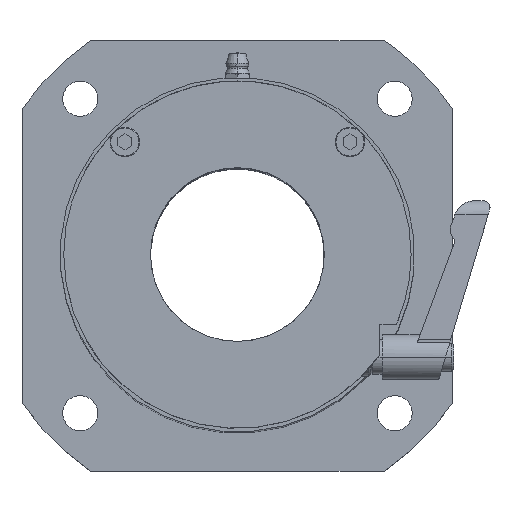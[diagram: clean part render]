
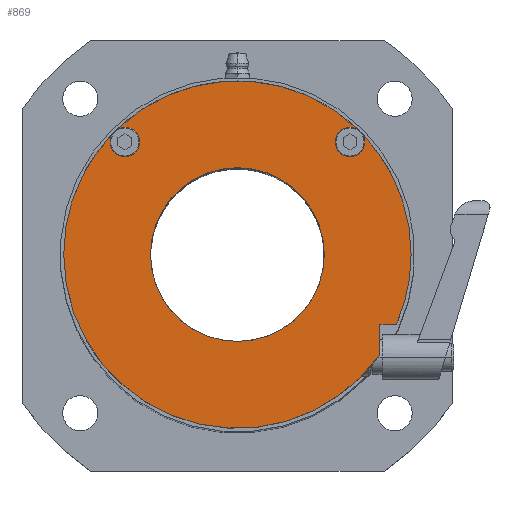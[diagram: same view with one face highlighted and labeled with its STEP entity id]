
A CAD part, top view. The second image highlights one B-rep face of the part: STEP entity #869.
In plain terms, the highlighted planar face has unit normal (0, 0, 1).
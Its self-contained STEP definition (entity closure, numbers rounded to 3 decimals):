
#74 = VERTEX_POINT ( 'NONE', #3962 ) ;
#192 = ORIENTED_EDGE ( 'NONE', *, *, #4297, .T. ) ;
#271 = DIRECTION ( 'NONE',  ( 0., 0., 1. ) ) ;
#337 = VERTEX_POINT ( 'NONE', #7314 ) ;
#341 = CARTESIAN_POINT ( 'NONE',  ( -3.247, 0.609, 110. ) ) ;
#458 = AXIS2_PLACEMENT_3D ( 'NONE', #341, #6110, #4451 ) ;
#488 = CARTESIAN_POINT ( 'NONE',  ( 24.903, 33.009, 110. ) ) ;
#557 = CIRCLE ( 'NONE', #3657, 4.25 ) ;
#651 = CARTESIAN_POINT ( 'NONE',  ( -35.647, 33.009, 110. ) ) ;
#792 = CARTESIAN_POINT ( 'NONE',  ( 37.753, -19.391, 110. ) ) ;
#869 = ADVANCED_FACE ( 'NONE', ( #9862, #3369 ), #8290, .T. ) ;
#907 = AXIS2_PLACEMENT_3D ( 'NONE', #4560, #4777, #2925 ) ;
#948 = AXIS2_PLACEMENT_3D ( 'NONE', #10139, #1015, #2691 ) ;
#1015 = DIRECTION ( 'NONE',  ( 0., 0., 1. ) ) ;
#1042 = CARTESIAN_POINT ( 'NONE',  ( -35.647, 33.009, 110. ) ) ;
#1295 = ORIENTED_EDGE ( 'NONE', *, *, #5390, .F. ) ;
#1397 = DIRECTION ( 'NONE',  ( 0., 0., 1. ) ) ;
#1441 = EDGE_LOOP ( 'NONE', ( #2919, #2845, #10084, #2715, #1295, #2370, #10509, #2144, #7143, #8366, #7213, #3323, #192 ) ) ;
#1450 = CARTESIAN_POINT ( 'NONE',  ( -38.029, 36.529, 110. ) ) ;
#1735 = CARTESIAN_POINT ( 'NONE',  ( 21.753, 0.609, 110. ) ) ;
#1766 = CIRCLE ( 'NONE', #907, 4.25 ) ;
#1876 = CARTESIAN_POINT ( 'NONE',  ( -31.397, 33.009, 110. ) ) ;
#1889 = VERTEX_POINT ( 'NONE', #9905 ) ;
#2044 = VERTEX_POINT ( 'NONE', #1735 ) ;
#2144 = ORIENTED_EDGE ( 'NONE', *, *, #9722, .F. ) ;
#2313 = DIRECTION ( 'NONE',  ( 0., 0., 1. ) ) ;
#2366 = EDGE_CURVE ( 'NONE', #8177, #6033, #10041, .T. ) ;
#2370 = ORIENTED_EDGE ( 'NONE', *, *, #6175, .T. ) ;
#2427 = CARTESIAN_POINT ( 'NONE',  ( 37.753, -19.391, 110. ) ) ;
#2497 = DIRECTION ( 'NONE',  ( 0., 0., 1. ) ) ;
#2503 = AXIS2_PLACEMENT_3D ( 'NONE', #8715, #2826, #9530 ) ;
#2513 = DIRECTION ( 'NONE',  ( 0., 1., 0. ) ) ;
#2577 = CARTESIAN_POINT ( 'NONE',  ( -3.247, 0.609, 110. ) ) ;
#2672 = DIRECTION ( 'NONE',  ( 0., 0., 1. ) ) ;
#2691 = DIRECTION ( 'NONE',  ( 1., 0., 0. ) ) ;
#2714 = DIRECTION ( 'NONE',  ( 1., 0., 0. ) ) ;
#2715 = ORIENTED_EDGE ( 'NONE', *, *, #4684, .F. ) ;
#2826 = DIRECTION ( 'NONE',  ( 0., 0., 1. ) ) ;
#2845 = ORIENTED_EDGE ( 'NONE', *, *, #8930, .T. ) ;
#2888 = VECTOR ( 'NONE', #2513, 1000. ) ;
#2919 = ORIENTED_EDGE ( 'NONE', *, *, #2366, .T. ) ;
#2925 = DIRECTION ( 'NONE',  ( 1., 0., 0. ) ) ;
#2975 = AXIS2_PLACEMENT_3D ( 'NONE', #4452, #3524, #3685 ) ;
#2978 = VERTEX_POINT ( 'NONE', #1450 ) ;
#3313 = DIRECTION ( 'NONE',  ( 1., 0., 0. ) ) ;
#3323 = ORIENTED_EDGE ( 'NONE', *, *, #6582, .T. ) ;
#3336 = CIRCLE ( 'NONE', #3683, 50. ) ;
#3351 = DIRECTION ( 'NONE',  ( 1., 0., 0. ) ) ;
#3369 = FACE_BOUND ( 'NONE', #7671, .T. ) ;
#3387 = VERTEX_POINT ( 'NONE', #4856 ) ;
#3392 = DIRECTION ( 'NONE',  ( 1., 0., 0. ) ) ;
#3524 = DIRECTION ( 'NONE',  ( 0., 0., 1. ) ) ;
#3657 = AXIS2_PLACEMENT_3D ( 'NONE', #6095, #271, #3392 ) ;
#3683 = AXIS2_PLACEMENT_3D ( 'NONE', #5512, #1397, #2714 ) ;
#3685 = DIRECTION ( 'NONE',  ( 1., 0., 0. ) ) ;
#3770 = CARTESIAN_POINT ( 'NONE',  ( 31.534, 36.529, 110. ) ) ;
#3777 = CIRCLE ( 'NONE', #8375, 4.25 ) ;
#3830 = EDGE_CURVE ( 'NONE', #8632, #3387, #1766, .T. ) ;
#3895 = CARTESIAN_POINT ( 'NONE',  ( -28.247, 0.609, 110. ) ) ;
#3962 = CARTESIAN_POINT ( 'NONE',  ( -53.247, 0.609, 110. ) ) ;
#4050 = DIRECTION ( 'NONE',  ( 1., 0., 0. ) ) ;
#4297 = EDGE_CURVE ( 'NONE', #7237, #8177, #9088, .T. ) ;
#4451 = DIRECTION ( 'NONE',  ( 1., 0., 0. ) ) ;
#4452 = CARTESIAN_POINT ( 'NONE',  ( -3.247, 0.609, 110. ) ) ;
#4491 = AXIS2_PLACEMENT_3D ( 'NONE', #8611, #2672, #9302 ) ;
#4550 = CARTESIAN_POINT ( 'NONE',  ( 37.753, -28.009, 110. ) ) ;
#4560 = CARTESIAN_POINT ( 'NONE',  ( 29.153, 33.009, 110. ) ) ;
#4684 = EDGE_CURVE ( 'NONE', #7788, #8632, #9240, .T. ) ;
#4705 = CIRCLE ( 'NONE', #8438, 50. ) ;
#4741 = LINE ( 'NONE', #792, #2888 ) ;
#4777 = DIRECTION ( 'NONE',  ( 0., 0., 1. ) ) ;
#4856 = CARTESIAN_POINT ( 'NONE',  ( 32.673, 35.39, 110. ) ) ;
#5041 = EDGE_CURVE ( 'NONE', #337, #74, #5581, .T. ) ;
#5170 = AXIS2_PLACEMENT_3D ( 'NONE', #10535, #9728, #3351 ) ;
#5233 = DIRECTION ( 'NONE',  ( 0., 0., 1. ) ) ;
#5390 = EDGE_CURVE ( 'NONE', #8732, #7788, #557, .T. ) ;
#5512 = CARTESIAN_POINT ( 'NONE',  ( -3.247, 0.609, 110. ) ) ;
#5561 = EDGE_CURVE ( 'NONE', #74, #7739, #4705, .T. ) ;
#5581 = CIRCLE ( 'NONE', #2975, 50. ) ;
#5617 = CIRCLE ( 'NONE', #9167, 4.25 ) ;
#5681 = CARTESIAN_POINT ( 'NONE',  ( 33.403, 33.009, 110. ) ) ;
#5734 = DIRECTION ( 'NONE',  ( 0., 0., 1. ) ) ;
#5978 = DIRECTION ( 'NONE',  ( 1., 0., 0. ) ) ;
#6028 = CIRCLE ( 'NONE', #8912, 50. ) ;
#6033 = VERTEX_POINT ( 'NONE', #6491 ) ;
#6095 = CARTESIAN_POINT ( 'NONE',  ( 29.153, 33.009, 110. ) ) ;
#6110 = DIRECTION ( 'NONE',  ( 0., 0., 1. ) ) ;
#6175 = EDGE_CURVE ( 'NONE', #8732, #2978, #3336, .T. ) ;
#6369 = DIRECTION ( 'NONE',  ( 0., 0., 1. ) ) ;
#6491 = CARTESIAN_POINT ( 'NONE',  ( 46.753, 0.609, 110. ) ) ;
#6582 = EDGE_CURVE ( 'NONE', #7739, #7237, #4741, .T. ) ;
#6787 = CIRCLE ( 'NONE', #2503, 25. ) ;
#7143 = ORIENTED_EDGE ( 'NONE', *, *, #9577, .F. ) ;
#7213 = ORIENTED_EDGE ( 'NONE', *, *, #5561, .T. ) ;
#7237 = VERTEX_POINT ( 'NONE', #2427 ) ;
#7314 = CARTESIAN_POINT ( 'NONE',  ( -39.168, 35.39, 110. ) ) ;
#7671 = EDGE_LOOP ( 'NONE', ( #10417, #10580 ) ) ;
#7739 = VERTEX_POINT ( 'NONE', #4550 ) ;
#7788 = VERTEX_POINT ( 'NONE', #488 ) ;
#7894 = DIRECTION ( 'NONE',  ( 1., 0., 0. ) ) ;
#7942 = EDGE_CURVE ( 'NONE', #8900, #2978, #3777, .T. ) ;
#8126 = CARTESIAN_POINT ( 'NONE',  ( 37.753, -19.391, 110. ) ) ;
#8177 = VERTEX_POINT ( 'NONE', #9982 ) ;
#8290 = PLANE ( 'NONE',  #4491 ) ;
#8356 = CIRCLE ( 'NONE', #9738, 4.25 ) ;
#8366 = ORIENTED_EDGE ( 'NONE', *, *, #5041, .T. ) ;
#8375 = AXIS2_PLACEMENT_3D ( 'NONE', #10320, #6369, #7894 ) ;
#8438 = AXIS2_PLACEMENT_3D ( 'NONE', #8848, #2313, #4050 ) ;
#8443 = VERTEX_POINT ( 'NONE', #3895 ) ;
#8611 = CARTESIAN_POINT ( 'NONE',  ( -3.247, 0.609, 110. ) ) ;
#8632 = VERTEX_POINT ( 'NONE', #5681 ) ;
#8715 = CARTESIAN_POINT ( 'NONE',  ( -3.247, 0.609, 110. ) ) ;
#8732 = VERTEX_POINT ( 'NONE', #3770 ) ;
#8848 = CARTESIAN_POINT ( 'NONE',  ( -3.247, 0.609, 110. ) ) ;
#8900 = VERTEX_POINT ( 'NONE', #1876 ) ;
#8912 = AXIS2_PLACEMENT_3D ( 'NONE', #2577, #5233, #9925 ) ;
#8930 = EDGE_CURVE ( 'NONE', #6033, #3387, #6028, .T. ) ;
#9015 = CIRCLE ( 'NONE', #458, 25. ) ;
#9088 = LINE ( 'NONE', #8126, #9427 ) ;
#9167 = AXIS2_PLACEMENT_3D ( 'NONE', #651, #5734, #5978 ) ;
#9240 = CIRCLE ( 'NONE', #5170, 4.25 ) ;
#9289 = DIRECTION ( 'NONE',  ( 1., 0., 0. ) ) ;
#9302 = DIRECTION ( 'NONE',  ( 1., 0., 0. ) ) ;
#9427 = VECTOR ( 'NONE', #3313, 1000. ) ;
#9530 = DIRECTION ( 'NONE',  ( 1., 0., 0. ) ) ;
#9577 = EDGE_CURVE ( 'NONE', #337, #1889, #8356, .T. ) ;
#9722 = EDGE_CURVE ( 'NONE', #1889, #8900, #5617, .T. ) ;
#9728 = DIRECTION ( 'NONE',  ( 0., 0., 1. ) ) ;
#9738 = AXIS2_PLACEMENT_3D ( 'NONE', #1042, #2497, #9289 ) ;
#9862 = FACE_OUTER_BOUND ( 'NONE', #1441, .T. ) ;
#9905 = CARTESIAN_POINT ( 'NONE',  ( -39.897, 33.009, 110. ) ) ;
#9925 = DIRECTION ( 'NONE',  ( 1., 0., 0. ) ) ;
#9982 = CARTESIAN_POINT ( 'NONE',  ( 42.578, -19.391, 110. ) ) ;
#10041 = CIRCLE ( 'NONE', #948, 50. ) ;
#10045 = EDGE_CURVE ( 'NONE', #2044, #8443, #6787, .T. ) ;
#10084 = ORIENTED_EDGE ( 'NONE', *, *, #3830, .F. ) ;
#10139 = CARTESIAN_POINT ( 'NONE',  ( -3.247, 0.609, 110. ) ) ;
#10320 = CARTESIAN_POINT ( 'NONE',  ( -35.647, 33.009, 110. ) ) ;
#10417 = ORIENTED_EDGE ( 'NONE', *, *, #10496, .F. ) ;
#10496 = EDGE_CURVE ( 'NONE', #8443, #2044, #9015, .T. ) ;
#10509 = ORIENTED_EDGE ( 'NONE', *, *, #7942, .F. ) ;
#10535 = CARTESIAN_POINT ( 'NONE',  ( 29.153, 33.009, 110. ) ) ;
#10580 = ORIENTED_EDGE ( 'NONE', *, *, #10045, .F. ) ;
